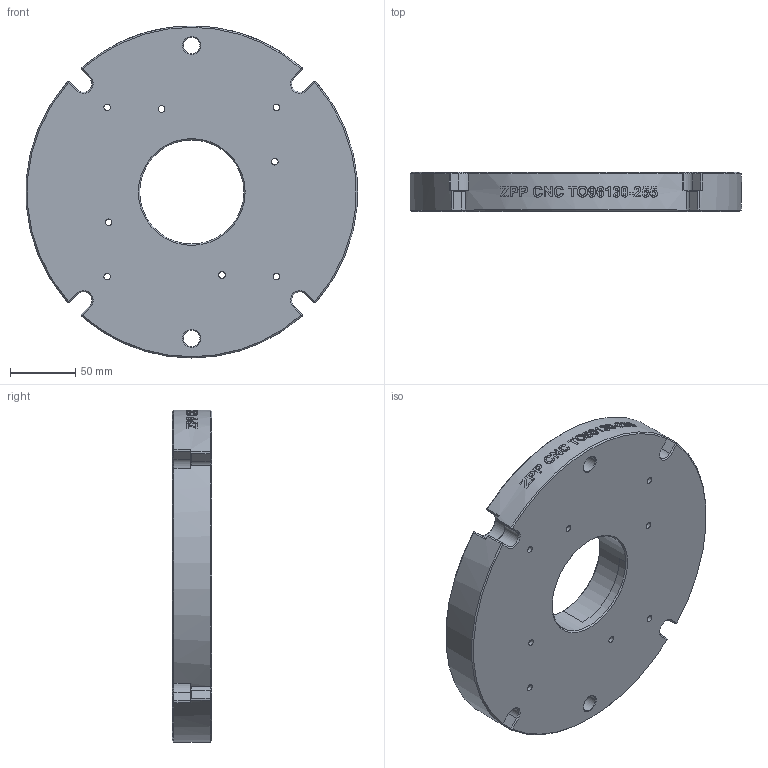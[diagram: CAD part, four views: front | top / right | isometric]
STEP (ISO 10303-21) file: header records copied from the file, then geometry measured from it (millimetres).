
FILE_DESCRIPTION((''),'2;1');
FILE_NAME('PRT0004','2025-12-11T15:24:33',('XF'),(''),'CREO PARAMETRIC BY PTC INC, 2023073','CREO PARAMETRIC BY PTC INC, 2023073','');
FILE_SCHEMA(('CONFIG_CONTROL_DESIGN'));
Length unit declared in the file: millimetre
Products named in the file (1): PRT0004
Bounding box: 254.61 x 30 x 255 mm (x, y, z)
Volume: 1261369.5 mm3; surface area: 142766.5 mm2
Topology: 1 solids, 17 shells, 611 faces, 1679 edges, 1120 vertices
Faces by surface type: extrusion 215, plane 186, cylinder 120, cone 72, torus 16, bspline 2
Entity records: 22308 total; most frequent: CARTESIAN_POINT 7360, ORIENTED_EDGE 3294, DIRECTION 2615, EDGE_CURVE 1647, VERTEX_POINT 1120, VECTOR 873, AXIS2_PLACEMENT_3D 871, B_SPLINE_CURVE_WITH_KNOTS 727
